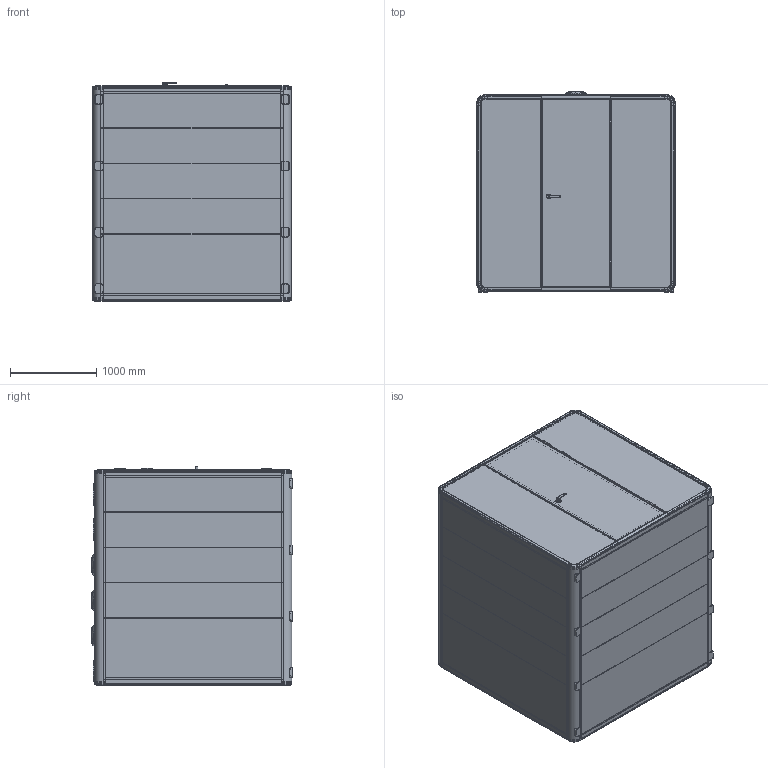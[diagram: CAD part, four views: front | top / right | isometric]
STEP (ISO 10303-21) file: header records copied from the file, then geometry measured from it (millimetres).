
FILE_DESCRIPTION (( 'STEP AP203' ), '1' );
FILE_NAME ('XL-all.STEP', '2023-08-06T03:13:18', ( '微软用户' ), ( '微软中国' ), 'SwSTEP 2.0', 'SolidWorks 2018', '' );
FILE_SCHEMA (( 'CONFIG_CONTROL_DESIGN' ));
Length unit declared in the file: millimetre
Products named in the file (27): YYD-YX-Q_3_5; 50100_ASM_2_ASM; 1080lamp; 2020002_2_1; socket; 20200_ASM_ASM_1_ASM; ASM0002_ASM_1_ASM_11_ASM_7_ASM; 頗祜袤-02.0; 39200_3; Vent; 4-200002_1; IR sensor; XL-all; YYD-YX-H_3_4; 20200_ASM_2_ASM_1_ASM; _6-27_3_1; Fan cover; 103000_2_1; 202_ASM0001_ASM; Knob controller; 2-SST_2_4; 4-200001_1; 俋參忒; Handle lock; ZSP_5_4_4; 250fan; XL-body
Assembly tree (40 placements, depth 6):
  XL-all
    XL-body
    Knob controller
    socket
    1080lamp  x2
    Handle lock
      50100_ASM_2_ASM
        ASM0002_ASM_1_ASM_11_ASM_7_ASM
          ZSP_5_4_4
          2-SST_2_4
      YYD-YX-H_3_4
      4-200002_1
      39200_3
      202_ASM0001_ASM
        20200_ASM_ASM_1_ASM
          20200_ASM_2_ASM_1_ASM
            103000_2_1
            _6-27_3_1
            2020002_2_1
      俋參忒
        YYD-YX-Q_3_5
        4-200001_1
    Fan cover  x3
    IR sensor
    Vent  x10
    250fan  x3
    頗祜袤-02.0
Bounding box: 2300 x 2326 x 2534.2 mm (x, y, z)
Volume: 1638738059.9 mm3; surface area: 136183467.5 mm2
Topology: 148 solids, 148 shells, 5718 faces, 14285 edges, 8745 vertices
Faces by surface type: cylinder 2385, plane 2261, bspline 482, torus 416, cone 110, sphere 64
Entity records: 174635 total; most frequent: CARTESIAN_POINT 60689, DIRECTION 24089, ORIENTED_EDGE 22802, EDGE_CURVE 11401, AXIS2_PLACEMENT_3D 8917, VERTEX_POINT 7071, LINE 6255, VECTOR 6255
